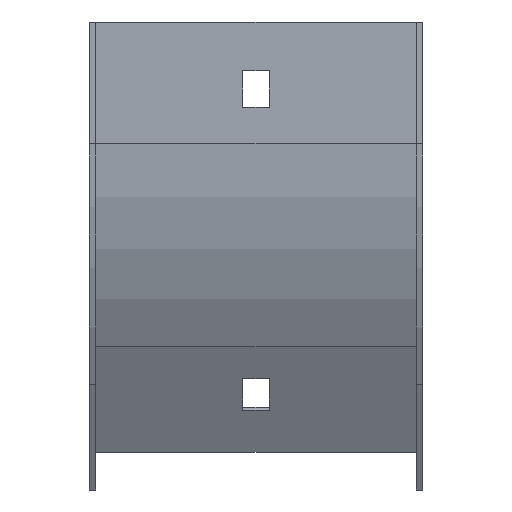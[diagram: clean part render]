
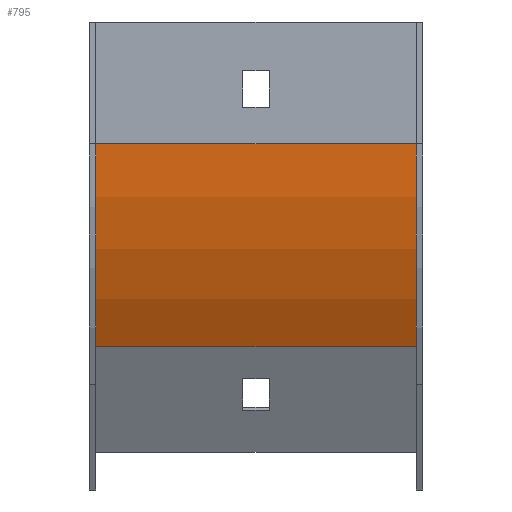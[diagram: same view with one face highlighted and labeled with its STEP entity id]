
A CAD part, front view. The second image highlights one B-rep face of the part: STEP entity #795.
In plain terms, the highlighted cylindrical face has radius 100 mm (diameter 200 mm), a partial arc.
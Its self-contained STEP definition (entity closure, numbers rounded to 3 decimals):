
#35 = CARTESIAN_POINT ( 'NONE',  ( 41., 98.5, -30. ) ) ;
#52 = EDGE_CURVE ( 'NONE', #718, #110, #309, .T. ) ;
#59 = DIRECTION ( 'NONE',  ( -1., 0., 0. ) ) ;
#98 = CARTESIAN_POINT ( 'NONE',  ( -39.5, 11.897, -80. ) ) ;
#110 = VERTEX_POINT ( 'NONE', #634 ) ;
#111 = ORIENTED_EDGE ( 'NONE', *, *, #52, .F. ) ;
#142 = VECTOR ( 'NONE', #59, 1000. ) ;
#146 = AXIS2_PLACEMENT_3D ( 'NONE', #35, #226, #757 ) ;
#204 = ORIENTED_EDGE ( 'NONE', *, *, #503, .T. ) ;
#226 = DIRECTION ( 'NONE',  ( -1., 0., 0. ) ) ;
#232 = ORIENTED_EDGE ( 'NONE', *, *, #236, .F. ) ;
#235 = CARTESIAN_POINT ( 'NONE',  ( 41., 11.897, -80. ) ) ;
#236 = EDGE_CURVE ( 'NONE', #724, #718, #513, .T. ) ;
#260 = DIRECTION ( 'NONE',  ( 0., 0., -1. ) ) ;
#291 = VECTOR ( 'NONE', #688, 1000. ) ;
#292 = EDGE_LOOP ( 'NONE', ( #111, #232, #204, #800 ) ) ;
#309 = CIRCLE ( 'NONE', #805, 100. ) ;
#327 = DIRECTION ( 'NONE',  ( -1., 0., 0. ) ) ;
#380 = CARTESIAN_POINT ( 'NONE',  ( -39.5, 98.5, -30. ) ) ;
#503 = EDGE_CURVE ( 'NONE', #724, #671, #635, .T. ) ;
#513 = LINE ( 'NONE', #235, #142 ) ;
#546 = CARTESIAN_POINT ( 'NONE',  ( 39.5, 98.5, -30. ) ) ;
#570 = FACE_OUTER_BOUND ( 'NONE', #292, .T. ) ;
#585 = AXIS2_PLACEMENT_3D ( 'NONE', #546, #327, #260 ) ;
#589 = DIRECTION ( 'NONE',  ( -1., 0., 0. ) ) ;
#626 = CARTESIAN_POINT ( 'NONE',  ( 41., -1.5, -30. ) ) ;
#634 = CARTESIAN_POINT ( 'NONE',  ( -39.5, -1.5, -30. ) ) ;
#635 = CIRCLE ( 'NONE', #585, 100. ) ;
#671 = VERTEX_POINT ( 'NONE', #761 ) ;
#675 = CYLINDRICAL_SURFACE ( 'NONE', #146, 100. ) ;
#688 = DIRECTION ( 'NONE',  ( -1., 0., 0. ) ) ;
#718 = VERTEX_POINT ( 'NONE', #98 ) ;
#724 = VERTEX_POINT ( 'NONE', #828 ) ;
#745 = EDGE_CURVE ( 'NONE', #671, #110, #818, .T. ) ;
#757 = DIRECTION ( 'NONE',  ( 0., 0., 1. ) ) ;
#761 = CARTESIAN_POINT ( 'NONE',  ( 39.5, -1.5, -30. ) ) ;
#771 = DIRECTION ( 'NONE',  ( 0., 0., -1. ) ) ;
#795 = ADVANCED_FACE ( 'NONE', ( #570 ), #675, .T. ) ;
#800 = ORIENTED_EDGE ( 'NONE', *, *, #745, .T. ) ;
#805 = AXIS2_PLACEMENT_3D ( 'NONE', #380, #589, #771 ) ;
#818 = LINE ( 'NONE', #626, #291 ) ;
#828 = CARTESIAN_POINT ( 'NONE',  ( 39.5, 11.897, -80. ) ) ;
